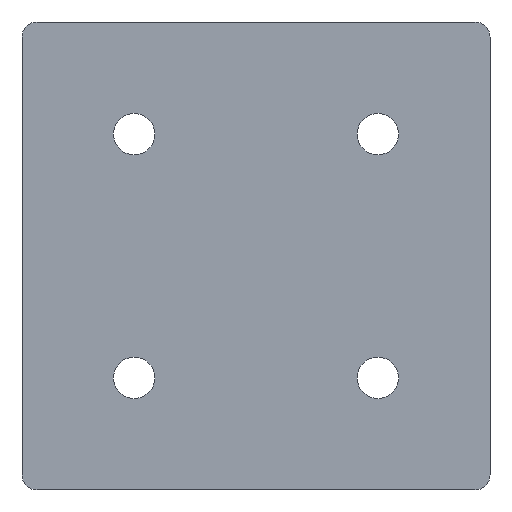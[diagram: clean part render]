
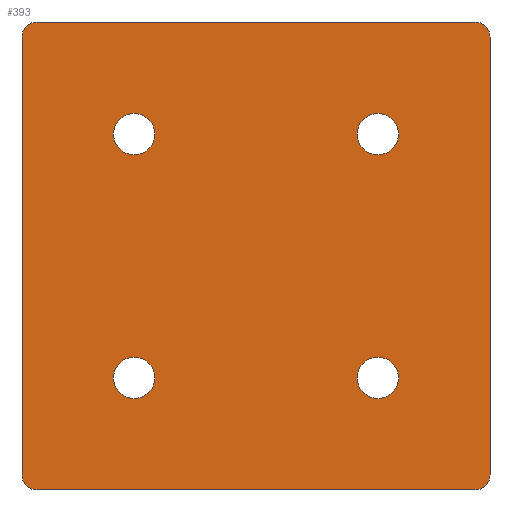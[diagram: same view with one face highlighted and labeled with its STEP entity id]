
A CAD part, front view. The second image highlights one B-rep face of the part: STEP entity #393.
In plain terms, the highlighted planar face has unit normal (0, -1, 0).
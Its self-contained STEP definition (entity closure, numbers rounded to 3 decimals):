
#4 = CARTESIAN_POINT ( 'NONE',  ( -21.573, 0., 1.75 ) ) ;
#12 = CARTESIAN_POINT ( 'NONE',  ( -21.573, 0., 47.5 ) ) ;
#17 = CARTESIAN_POINT ( 'NONE',  ( 28.427, 0., 6. ) ) ;
#19 = AXIS2_PLACEMENT_3D ( 'NONE', #150, #575, #209 ) ;
#22 = DIRECTION ( 'NONE',  ( 0., 0., 1. ) ) ;
#24 = DIRECTION ( 'NONE',  ( 0., -1., 0. ) ) ;
#29 = AXIS2_PLACEMENT_3D ( 'NONE', #663, #386, #326 ) ;
#32 = EDGE_CURVE ( 'NONE', #329, #671, #205, .T. ) ;
#37 = EDGE_CURVE ( 'NONE', #351, #308, #391, .T. ) ;
#42 = EDGE_CURVE ( 'NONE', #379, #229, #408, .T. ) ;
#43 = CARTESIAN_POINT ( 'NONE',  ( -44.573, 0., -18.14 ) ) ;
#50 = DIRECTION ( 'NONE',  ( 0., -1., 0. ) ) ;
#52 = CARTESIAN_POINT ( 'NONE',  ( -21.573, 0., 51.75 ) ) ;
#54 = AXIS2_PLACEMENT_3D ( 'NONE', #52, #323, #656 ) ;
#55 = EDGE_CURVE ( 'NONE', #671, #379, #407, .T. ) ;
#57 = EDGE_CURVE ( 'NONE', #315, #151, #406, .T. ) ;
#58 = CARTESIAN_POINT ( 'NONE',  ( -21.573, 0., -2.5 ) ) ;
#63 = VERTEX_POINT ( 'NONE', #123 ) ;
#67 = EDGE_LOOP ( 'NONE', ( #69, #608 ) ) ;
#69 = ORIENTED_EDGE ( 'NONE', *, *, #462, .F. ) ;
#72 = EDGE_CURVE ( 'NONE', #267, #220, #168, .T. ) ;
#81 = CARTESIAN_POINT ( 'NONE',  ( -41.463, 0., -18.14 ) ) ;
#82 = CARTESIAN_POINT ( 'NONE',  ( 28.427, 0., -2.5 ) ) ;
#90 = CARTESIAN_POINT ( 'NONE',  ( -44.573, 0., 71.64 ) ) ;
#92 = CARTESIAN_POINT ( 'NONE',  ( 48.317, 0., 74.75 ) ) ;
#99 = CARTESIAN_POINT ( 'NONE',  ( 28.427, 0., 1.75 ) ) ;
#102 = CARTESIAN_POINT ( 'NONE',  ( -21.573, 0., 1.75 ) ) ;
#114 = CIRCLE ( 'NONE', #595, 3.11 ) ;
#115 = EDGE_CURVE ( 'NONE', #272, #288, #342, .T. ) ;
#122 = CIRCLE ( 'NONE', #563, 4.25 ) ;
#123 = CARTESIAN_POINT ( 'NONE',  ( 48.317, 0., 74.75 ) ) ;
#129 = EDGE_CURVE ( 'NONE', #216, #329, #422, .T. ) ;
#131 = CARTESIAN_POINT ( 'NONE',  ( 48.317, 0., 71.64 ) ) ;
#136 = ORIENTED_EDGE ( 'NONE', *, *, #657, .F. ) ;
#138 = ORIENTED_EDGE ( 'NONE', *, *, #72, .T. ) ;
#139 = DIRECTION ( 'NONE',  ( 1., 0., 0. ) ) ;
#140 = DIRECTION ( 'NONE',  ( 0., 0., -1. ) ) ;
#149 = ORIENTED_EDGE ( 'NONE', *, *, #42, .T. ) ;
#150 = CARTESIAN_POINT ( 'NONE',  ( -41.463, 0., 71.64 ) ) ;
#151 = VERTEX_POINT ( 'NONE', #58 ) ;
#153 = VECTOR ( 'NONE', #609, 1000. ) ;
#154 = ORIENTED_EDGE ( 'NONE', *, *, #633, .T. ) ;
#162 = CIRCLE ( 'NONE', #584, 3.11 ) ;
#167 = ORIENTED_EDGE ( 'NONE', *, *, #129, .T. ) ;
#168 = LINE ( 'NONE', #170, #419 ) ;
#170 = CARTESIAN_POINT ( 'NONE',  ( 51.427, 0., -18.14 ) ) ;
#175 = DIRECTION ( 'NONE',  ( 0., 0., 1. ) ) ;
#180 = ORIENTED_EDGE ( 'NONE', *, *, #37, .F. ) ;
#187 = DIRECTION ( 'NONE',  ( 0., 0., -1. ) ) ;
#205 = LINE ( 'NONE', #245, #153 ) ;
#209 = DIRECTION ( 'NONE',  ( 0., 0., -1. ) ) ;
#212 = EDGE_LOOP ( 'NONE', ( #180, #360 ) ) ;
#213 = AXIS2_PLACEMENT_3D ( 'NONE', #330, #24, #662 ) ;
#216 = VERTEX_POINT ( 'NONE', #301 ) ;
#220 = VERTEX_POINT ( 'NONE', #552 ) ;
#221 = ORIENTED_EDGE ( 'NONE', *, *, #55, .T. ) ;
#226 = AXIS2_PLACEMENT_3D ( 'NONE', #4, #300, #642 ) ;
#229 = VERTEX_POINT ( 'NONE', #558 ) ;
#230 = ORIENTED_EDGE ( 'NONE', *, *, #498, .F. ) ;
#237 = ORIENTED_EDGE ( 'NONE', *, *, #32, .T. ) ;
#242 = DIRECTION ( 'NONE',  ( 0., 0., 1. ) ) ;
#245 = CARTESIAN_POINT ( 'NONE',  ( -44.573, 0., 71.64 ) ) ;
#250 = ORIENTED_EDGE ( 'NONE', *, *, #559, .F. ) ;
#251 = ORIENTED_EDGE ( 'NONE', *, *, #536, .T. ) ;
#254 = DIRECTION ( 'NONE',  ( 0., 0., 1. ) ) ;
#263 = DIRECTION ( 'NONE',  ( 0., 0., 1. ) ) ;
#267 = VERTEX_POINT ( 'NONE', #548 ) ;
#268 = AXIS2_PLACEMENT_3D ( 'NONE', #102, #459, #263 ) ;
#272 = VERTEX_POINT ( 'NONE', #17 ) ;
#277 = AXIS2_PLACEMENT_3D ( 'NONE', #626, #50, #140 ) ;
#288 = VERTEX_POINT ( 'NONE', #82 ) ;
#289 = AXIS2_PLACEMENT_3D ( 'NONE', #303, #644, #242 ) ;
#292 = EDGE_LOOP ( 'NONE', ( #250, #331 ) ) ;
#296 = ORIENTED_EDGE ( 'NONE', *, *, #639, .T. ) ;
#300 = DIRECTION ( 'NONE',  ( 0., -1., 0. ) ) ;
#301 = CARTESIAN_POINT ( 'NONE',  ( -41.463, 0., 74.75 ) ) ;
#303 = CARTESIAN_POINT ( 'NONE',  ( 28.427, 0., 51.75 ) ) ;
#308 = VERTEX_POINT ( 'NONE', #604 ) ;
#309 = AXIS2_PLACEMENT_3D ( 'NONE', #81, #417, #429 ) ;
#310 = EDGE_LOOP ( 'NONE', ( #136, #230 ) ) ;
#315 = VERTEX_POINT ( 'NONE', #555 ) ;
#319 = DIRECTION ( 'NONE',  ( -1., 0., 0. ) ) ;
#320 = AXIS2_PLACEMENT_3D ( 'NONE', #99, #516, #22 ) ;
#323 = DIRECTION ( 'NONE',  ( 0., -1., 0. ) ) ;
#326 = DIRECTION ( 'NONE',  ( 0., 0., 1. ) ) ;
#329 = VERTEX_POINT ( 'NONE', #90 ) ;
#330 = CARTESIAN_POINT ( 'NONE',  ( 28.427, 0., 1.75 ) ) ;
#331 = ORIENTED_EDGE ( 'NONE', *, *, #57, .F. ) ;
#342 = CIRCLE ( 'NONE', #213, 4.25 ) ;
#351 = VERTEX_POINT ( 'NONE', #520 ) ;
#360 = ORIENTED_EDGE ( 'NONE', *, *, #545, .F. ) ;
#377 = CARTESIAN_POINT ( 'NONE',  ( 48.317, 0., -18.14 ) ) ;
#379 = VERTEX_POINT ( 'NONE', #624 ) ;
#386 = DIRECTION ( 'NONE',  ( 0., -1., 0. ) ) ;
#391 = CIRCLE ( 'NONE', #289, 4.25 ) ;
#393 = ADVANCED_FACE ( 'NONE', ( #467, #475, #479, #495, #480 ), #621, .T. ) ;
#399 = VECTOR ( 'NONE', #139, 1000. ) ;
#406 = CIRCLE ( 'NONE', #226, 4.25 ) ;
#407 = CIRCLE ( 'NONE', #309, 3.11 ) ;
#408 = LINE ( 'NONE', #565, #399 ) ;
#417 = DIRECTION ( 'NONE',  ( 0., -1., 0. ) ) ;
#419 = VECTOR ( 'NONE', #175, 1000. ) ;
#422 = CIRCLE ( 'NONE', #19, 3.11 ) ;
#429 = DIRECTION ( 'NONE',  ( 0., 0., -1. ) ) ;
#433 = CARTESIAN_POINT ( 'NONE',  ( -21.573, 0., 56. ) ) ;
#435 = CARTESIAN_POINT ( 'NONE',  ( -21.573, 0., 51.75 ) ) ;
#459 = DIRECTION ( 'NONE',  ( 0., -1., 0. ) ) ;
#462 = EDGE_CURVE ( 'NONE', #288, #272, #493, .T. ) ;
#467 = FACE_BOUND ( 'NONE', #292, .T. ) ;
#475 = FACE_BOUND ( 'NONE', #67, .T. ) ;
#479 = FACE_BOUND ( 'NONE', #310, .T. ) ;
#480 = FACE_OUTER_BOUND ( 'NONE', #598, .T. ) ;
#493 = CIRCLE ( 'NONE', #320, 4.25 ) ;
#495 = FACE_BOUND ( 'NONE', #212, .T. ) ;
#498 = EDGE_CURVE ( 'NONE', #607, #587, #519, .T. ) ;
#500 = DIRECTION ( 'NONE',  ( 0., -1., 0. ) ) ;
#502 = CIRCLE ( 'NONE', #268, 4.25 ) ;
#504 = VECTOR ( 'NONE', #319, 1000. ) ;
#515 = LINE ( 'NONE', #92, #504 ) ;
#516 = DIRECTION ( 'NONE',  ( 0., -1., 0. ) ) ;
#518 = CIRCLE ( 'NONE', #29, 4.25 ) ;
#519 = CIRCLE ( 'NONE', #54, 4.25 ) ;
#520 = CARTESIAN_POINT ( 'NONE',  ( 28.427, 0., 47.5 ) ) ;
#536 = EDGE_CURVE ( 'NONE', #63, #216, #515, .T. ) ;
#545 = EDGE_CURVE ( 'NONE', #308, #351, #518, .T. ) ;
#548 = CARTESIAN_POINT ( 'NONE',  ( 51.427, 0., -18.14 ) ) ;
#552 = CARTESIAN_POINT ( 'NONE',  ( 51.427, 0., 71.64 ) ) ;
#555 = CARTESIAN_POINT ( 'NONE',  ( -21.573, 0., 6. ) ) ;
#556 = DIRECTION ( 'NONE',  ( 0., -1., 0. ) ) ;
#558 = CARTESIAN_POINT ( 'NONE',  ( 48.317, 0., -21.25 ) ) ;
#559 = EDGE_CURVE ( 'NONE', #151, #315, #502, .T. ) ;
#563 = AXIS2_PLACEMENT_3D ( 'NONE', #435, #650, #254 ) ;
#565 = CARTESIAN_POINT ( 'NONE',  ( -41.463, 0., -21.25 ) ) ;
#575 = DIRECTION ( 'NONE',  ( 0., -1., 0. ) ) ;
#584 = AXIS2_PLACEMENT_3D ( 'NONE', #377, #500, #653 ) ;
#587 = VERTEX_POINT ( 'NONE', #12 ) ;
#595 = AXIS2_PLACEMENT_3D ( 'NONE', #131, #556, #187 ) ;
#598 = EDGE_LOOP ( 'NONE', ( #154, #138, #296, #251, #167, #237, #221, #149 ) ) ;
#604 = CARTESIAN_POINT ( 'NONE',  ( 28.427, 0., 56. ) ) ;
#607 = VERTEX_POINT ( 'NONE', #433 ) ;
#608 = ORIENTED_EDGE ( 'NONE', *, *, #115, .F. ) ;
#609 = DIRECTION ( 'NONE',  ( 0., 0., -1. ) ) ;
#621 = PLANE ( 'NONE',  #277 ) ;
#624 = CARTESIAN_POINT ( 'NONE',  ( -41.463, 0., -21.25 ) ) ;
#626 = CARTESIAN_POINT ( 'NONE',  ( 48.317, 0., -18.14 ) ) ;
#633 = EDGE_CURVE ( 'NONE', #229, #267, #162, .T. ) ;
#639 = EDGE_CURVE ( 'NONE', #220, #63, #114, .T. ) ;
#642 = DIRECTION ( 'NONE',  ( 0., 0., 1. ) ) ;
#644 = DIRECTION ( 'NONE',  ( 0., -1., 0. ) ) ;
#650 = DIRECTION ( 'NONE',  ( 0., -1., 0. ) ) ;
#653 = DIRECTION ( 'NONE',  ( 0., 0., -1. ) ) ;
#656 = DIRECTION ( 'NONE',  ( 0., 0., 1. ) ) ;
#657 = EDGE_CURVE ( 'NONE', #587, #607, #122, .T. ) ;
#662 = DIRECTION ( 'NONE',  ( 0., 0., 1. ) ) ;
#663 = CARTESIAN_POINT ( 'NONE',  ( 28.427, 0., 51.75 ) ) ;
#671 = VERTEX_POINT ( 'NONE', #43 ) ;
